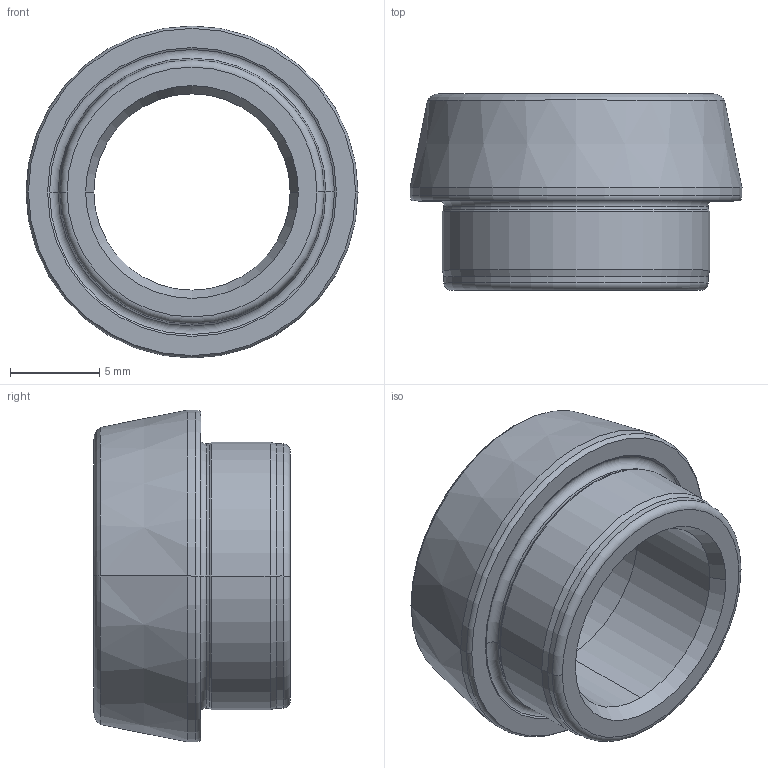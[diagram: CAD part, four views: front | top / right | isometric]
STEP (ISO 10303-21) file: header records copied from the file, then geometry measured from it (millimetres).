
FILE_DESCRIPTION (( 'STEP AP203' ), '1' );
FILE_NAME ('VXF0100-PD.STEP', '2014-11-25T04:59:15', ( '0393' ), ( 'Hewlett-Packard Company' ), 'SwSTEP 2.0', 'SolidWorks 2013', '' );
FILE_SCHEMA (( 'CONFIG_CONTROL_DESIGN' ));
Length unit declared in the file: millimetre
Products named in the file (1): VXF0100-PD
Bounding box: 18.6 x 11 x 18.6 mm (x, y, z)
Volume: 1287.3 mm3; surface area: 1203.3 mm2
Topology: 1 solids, 1 shells, 35 faces, 72 edges, 40 vertices
Faces by surface type: cone 12, torus 10, cylinder 10, plane 3
Entity records: 1005 total; most frequent: DIRECTION 194, CARTESIAN_POINT 148, ORIENTED_EDGE 144, AXIS2_PLACEMENT_3D 86, EDGE_CURVE 72, CIRCLE 50, VERTEX_POINT 40, EDGE_LOOP 38
